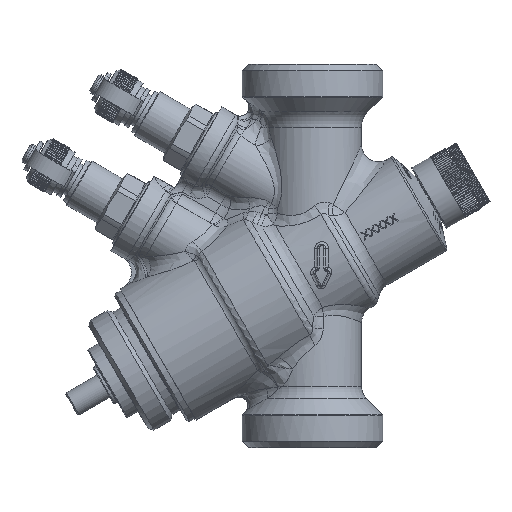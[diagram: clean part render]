
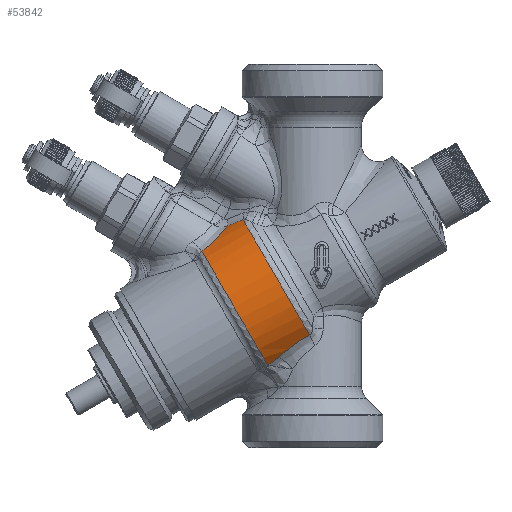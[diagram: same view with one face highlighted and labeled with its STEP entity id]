
A CAD part, left-side view. The second image highlights one B-rep face of the part: STEP entity #53842.
In plain terms, the highlighted cylindrical face has radius 18.874 mm (diameter 37.748 mm), a partial arc.
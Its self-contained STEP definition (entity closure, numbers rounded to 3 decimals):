
#1591=ELLIPSE('',#57836,75.582,18.874);
#2910=CIRCLE('',#57878,18.874);
#2911=CIRCLE('',#57879,18.874);
#7191=FACE_OUTER_BOUND('',#10307,.T.);
#10307=EDGE_LOOP('',(#38505,#38506,#38507,#38508,#38509,#38510));
#13611=B_SPLINE_CURVE_WITH_KNOTS('',3,(#90857,#90858,#90859,#90860,#90861,
#90862,#90863,#90864,#90865,#90866,#90867,#90868),.UNSPECIFIED.,.F.,.F.,
(4,2,2,2,2,4),(0.001,0.004,0.006,
0.007,0.009,0.011),
 .UNSPECIFIED.);
#13614=B_SPLINE_CURVE_WITH_KNOTS('',3,(#90928,#90929,#90930,#90931,#90932,
#90933,#90934,#90935,#90936,#90937,#90938,#90939,#90940,#90941,#90942,#90943,
#90944,#90945,#90946,#90947,#90948,#90949,#90950,#90951,#90952),
 .UNSPECIFIED.,.F.,.F.,(4,3,3,3,3,3,3,3,4),(0.,0.001,
0.001,0.002,0.002,0.002,
0.002,0.003,0.003),
 .UNSPECIFIED.);
#13616=B_SPLINE_CURVE_WITH_KNOTS('',3,(#91038,#91039,#91040,#91041,#91042,
#91043,#91044,#91045,#91046,#91047,#91048,#91049,#91050,#91051,#91052,#91053,
#91054,#91055,#91056,#91057,#91058,#91059,#91060,#91061,#91062,#91063,#91064,
#91065,#91066,#91067,#91068),.UNSPECIFIED.,.F.,.F.,(4,3,3,3,3,3,3,3,3,3,
4),(0.,0.001,0.003,0.004,0.005,
0.006,0.007,0.007,0.008,
0.009,0.009),.UNSPECIFIED.);
#23208=VERTEX_POINT('',#89686);
#23209=VERTEX_POINT('',#89752);
#23253=VERTEX_POINT('',#90855);
#23257=VERTEX_POINT('',#90926);
#23258=VERTEX_POINT('',#90927);
#23260=VERTEX_POINT('',#91035);
#29095=EDGE_CURVE('',#23209,#23208,#1591,.T.);
#29161=EDGE_CURVE('',#23208,#23253,#13611,.T.);
#29167=EDGE_CURVE('',#23257,#23258,#13614,.T.);
#29170=EDGE_CURVE('',#23209,#23260,#2910,.T.);
#29171=EDGE_CURVE('',#23253,#23257,#2911,.T.);
#29172=EDGE_CURVE('',#23258,#23260,#13616,.T.);
#38505=ORIENTED_EDGE('',*,*,#29170,.F.);
#38506=ORIENTED_EDGE('',*,*,#29095,.T.);
#38507=ORIENTED_EDGE('',*,*,#29161,.T.);
#38508=ORIENTED_EDGE('',*,*,#29171,.T.);
#38509=ORIENTED_EDGE('',*,*,#29167,.T.);
#38510=ORIENTED_EDGE('',*,*,#29172,.T.);
#52863=CYLINDRICAL_SURFACE('',#57877,18.874);
#53842=ADVANCED_FACE('',(#7191),#52863,.T.);
#57836=AXIS2_PLACEMENT_3D('',#89754,#63228,#63229);
#57877=AXIS2_PLACEMENT_3D('',#91034,#63318,#63319);
#57878=AXIS2_PLACEMENT_3D('',#91036,#63320,#63321);
#57879=AXIS2_PLACEMENT_3D('',#91037,#63322,#63323);
#63228=DIRECTION('center_axis',(-0.828,0.467,0.31));
#63229=DIRECTION('ref_axis',(0.214,0.774,-0.596));
#63318=DIRECTION('center_axis',(0.,-0.866,
0.5));
#63319=DIRECTION('ref_axis',(0.,-0.5,-0.866));
#63320=DIRECTION('center_axis',(0.,-0.866,
0.5));
#63321=DIRECTION('ref_axis',(0.,-0.5,-0.866));
#63322=DIRECTION('center_axis',(0.,-0.866,
0.5));
#63323=DIRECTION('ref_axis',(0.,-0.5,-0.866));
#89686=CARTESIAN_POINT('',(-5.401,20.291,9.167));
#89752=CARTESIAN_POINT('',(-6.949,16.511,10.73));
#89754=CARTESIAN_POINT('Origin',(0.,58.247,
-33.629));
#90855=CARTESIAN_POINT('',(-10.036,26.219,3.32));
#90857=CARTESIAN_POINT('Ctrl Pts',(-5.401,20.291,9.167));
#90858=CARTESIAN_POINT('Ctrl Pts',(-6.062,20.573,8.776));
#90859=CARTESIAN_POINT('Ctrl Pts',(-6.658,20.91,8.331));
#90860=CARTESIAN_POINT('Ctrl Pts',(-7.726,21.711,7.36));
#90861=CARTESIAN_POINT('Ctrl Pts',(-8.181,22.162,6.851));
#90862=CARTESIAN_POINT('Ctrl Pts',(-8.758,22.917,6.076));
#90863=CARTESIAN_POINT('Ctrl Pts',(-8.932,23.182,5.815));
#90864=CARTESIAN_POINT('Ctrl Pts',(-9.247,23.739,5.294));
#90865=CARTESIAN_POINT('Ctrl Pts',(-9.385,24.027,5.037));
#90866=CARTESIAN_POINT('Ctrl Pts',(-9.748,24.919,4.278));
#90867=CARTESIAN_POINT('Ctrl Pts',(-9.921,25.551,3.789));
#90868=CARTESIAN_POINT('Ctrl Pts',(-10.036,26.219,3.32));
#90926=CARTESIAN_POINT('',(-11.236,10.645,-23.656));
#90927=CARTESIAN_POINT('',(-11.707,8.07,-21.754));
#90928=CARTESIAN_POINT('Ctrl Pts',(-11.236,10.645,-23.656));
#90929=CARTESIAN_POINT('Ctrl Pts',(-11.26,10.419,-23.506));
#90930=CARTESIAN_POINT('Ctrl Pts',(-11.284,10.194,-23.355));
#90931=CARTESIAN_POINT('Ctrl Pts',(-11.311,9.97,-23.203));
#90932=CARTESIAN_POINT('Ctrl Pts',(-11.331,9.8,-23.087));
#90933=CARTESIAN_POINT('Ctrl Pts',(-11.354,9.631,-22.97));
#90934=CARTESIAN_POINT('Ctrl Pts',(-11.379,9.465,-22.852));
#90935=CARTESIAN_POINT('Ctrl Pts',(-11.387,9.414,-22.816));
#90936=CARTESIAN_POINT('Ctrl Pts',(-11.395,9.364,-22.78));
#90937=CARTESIAN_POINT('Ctrl Pts',(-11.403,9.314,-22.744));
#90938=CARTESIAN_POINT('Ctrl Pts',(-11.403,9.311,-22.742));
#90939=CARTESIAN_POINT('Ctrl Pts',(-11.404,9.309,-22.74));
#90940=CARTESIAN_POINT('Ctrl Pts',(-11.404,9.307,-22.739));
#90941=CARTESIAN_POINT('Ctrl Pts',(-11.428,9.162,-22.634));
#90942=CARTESIAN_POINT('Ctrl Pts',(-11.455,9.018,-22.528));
#90943=CARTESIAN_POINT('Ctrl Pts',(-11.484,8.877,-22.42));
#90944=CARTESIAN_POINT('Ctrl Pts',(-11.499,8.807,-22.366));
#90945=CARTESIAN_POINT('Ctrl Pts',(-11.515,8.738,-22.313));
#90946=CARTESIAN_POINT('Ctrl Pts',(-11.531,8.669,-22.258));
#90947=CARTESIAN_POINT('Ctrl Pts',(-11.561,8.546,-22.161));
#90948=CARTESIAN_POINT('Ctrl Pts',(-11.594,8.424,-22.061));
#90949=CARTESIAN_POINT('Ctrl Pts',(-11.63,8.305,-21.959));
#90950=CARTESIAN_POINT('Ctrl Pts',(-11.654,8.226,-21.892));
#90951=CARTESIAN_POINT('Ctrl Pts',(-11.68,8.147,-21.823));
#90952=CARTESIAN_POINT('Ctrl Pts',(-11.707,8.07,-21.754));
#91034=CARTESIAN_POINT('Origin',(0.,-33.681,
19.446));
#91035=CARTESIAN_POINT('',(-12.817,0.81,-16.466));
#91036=CARTESIAN_POINT('Origin',(0.,7.737,
-4.467));
#91037=CARTESIAN_POINT('Origin',(0.,18.227,
-10.523));
#91038=CARTESIAN_POINT('Ctrl Pts',(-11.707,8.07,-21.754));
#91039=CARTESIAN_POINT('Ctrl Pts',(-11.827,7.736,-21.451));
#91040=CARTESIAN_POINT('Ctrl Pts',(-11.938,7.397,-21.152));
#91041=CARTESIAN_POINT('Ctrl Pts',(-12.04,7.054,-20.856));
#91042=CARTESIAN_POINT('Ctrl Pts',(-12.135,6.732,-20.579));
#91043=CARTESIAN_POINT('Ctrl Pts',(-12.223,6.405,-20.305));
#91044=CARTESIAN_POINT('Ctrl Pts',(-12.302,6.074,-20.035));
#91045=CARTESIAN_POINT('Ctrl Pts',(-12.375,5.769,-19.787));
#91046=CARTESIAN_POINT('Ctrl Pts',(-12.441,5.46,-19.541));
#91047=CARTESIAN_POINT('Ctrl Pts',(-12.499,5.146,-19.3));
#91048=CARTESIAN_POINT('Ctrl Pts',(-12.531,4.978,-19.172));
#91049=CARTESIAN_POINT('Ctrl Pts',(-12.56,4.81,-19.044));
#91050=CARTESIAN_POINT('Ctrl Pts',(-12.588,4.64,-18.917));
#91051=CARTESIAN_POINT('Ctrl Pts',(-12.636,4.339,-18.694));
#91052=CARTESIAN_POINT('Ctrl Pts',(-12.678,4.035,-18.475));
#91053=CARTESIAN_POINT('Ctrl Pts',(-12.712,3.726,-18.26));
#91054=CARTESIAN_POINT('Ctrl Pts',(-12.745,3.439,-18.06));
#91055=CARTESIAN_POINT('Ctrl Pts',(-12.771,3.148,-17.865));
#91056=CARTESIAN_POINT('Ctrl Pts',(-12.79,2.853,-17.674));
#91057=CARTESIAN_POINT('Ctrl Pts',(-12.792,2.83,-17.659));
#91058=CARTESIAN_POINT('Ctrl Pts',(-12.793,2.807,-17.644));
#91059=CARTESIAN_POINT('Ctrl Pts',(-12.795,2.784,-17.629));
#91060=CARTESIAN_POINT('Ctrl Pts',(-12.812,2.515,-17.455));
#91061=CARTESIAN_POINT('Ctrl Pts',(-12.823,2.241,-17.285));
#91062=CARTESIAN_POINT('Ctrl Pts',(-12.829,1.964,-17.119));
#91063=CARTESIAN_POINT('Ctrl Pts',(-12.834,1.709,-16.967));
#91064=CARTESIAN_POINT('Ctrl Pts',(-12.834,1.451,-16.818));
#91065=CARTESIAN_POINT('Ctrl Pts',(-12.828,1.191,-16.673));
#91066=CARTESIAN_POINT('Ctrl Pts',(-12.826,1.065,-16.603));
#91067=CARTESIAN_POINT('Ctrl Pts',(-12.822,0.938,
-16.534));
#91068=CARTESIAN_POINT('Ctrl Pts',(-12.817,0.81,
-16.466));
